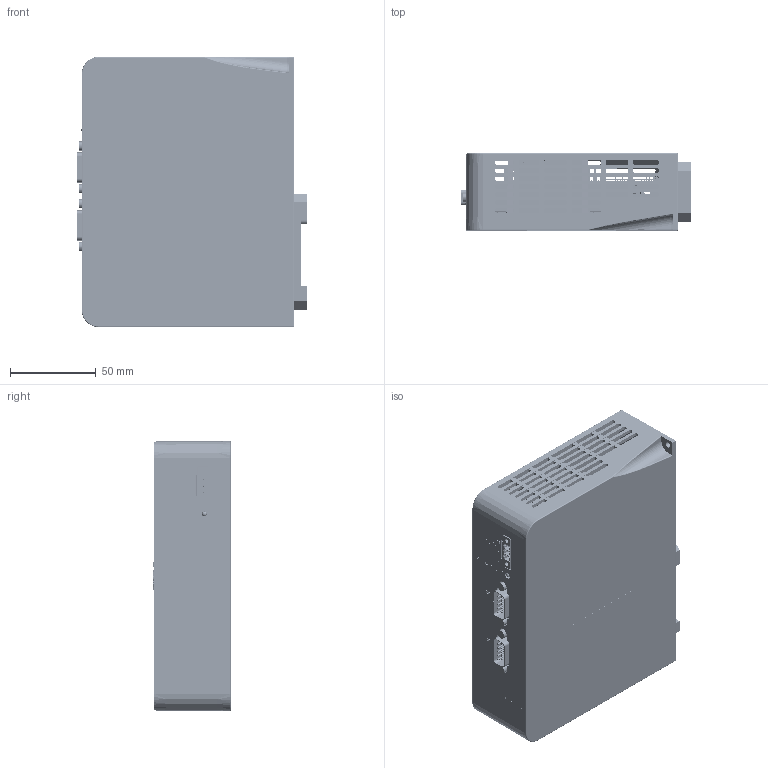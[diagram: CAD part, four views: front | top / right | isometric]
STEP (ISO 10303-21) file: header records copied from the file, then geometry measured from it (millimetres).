
FILE_DESCRIPTION((''),'2;1');
FILE_NAME('C:\Users\Laptop\Desktop\WORK FOLDERS\ACS\SPiiPlusEC\SPiiPlusEC_VER04\MNF\SPiiPlusEC_22.04.14\SPiiPlusEC\STEP\SPiiPlusEC_22.04.14.stp','2014-04-22T16:07:43',('Laptop'),(''),'Autodesk Inventor 2012','Autodesk Inventor 2012','');
FILE_SCHEMA(('AUTOMOTIVE_DESIGN { 1 0 10303 214 1 1 1 1 }'));
Products named in the file (27): SPiiPlusEC; BO-17400-000; 20140325-083620-19116653; CV-17400-000; PC-17432-000-LF; DC-DC, 24V; 1827871; LED_L-130WDT_1 EGW; D-TYPE 9 PIN MALE R; 6150081xxx21; Shielding; Insulator; 878311241; Part2; Part3; MPU; UPPER PCB BOARD- MPU; HEATSINK; FAN_40x40x20; Part1; DINM13-RC DIN RAIL MOUNT CLIP; FLAT BOARD; Flex Board; 791077055; KA50X16
Assembly tree (45 placements, depth 4):
  SPiiPlusEC
    BO-17400-000
      BO-17400-000
      20140325-083620-19116653  x9
    CV-17400-000
    PC-17432-000-LF
      PC-17432-000-LF
      DC-DC, 24V
      1827871
      LED_L-130WDT_1 EGW
      D-TYPE 9 PIN MALE R  x2
      6150081xxx21  x3
        Shielding
        Insulator
      878311241  x3
      Part2
      Part3
    MPU
      UPPER PCB BOARD- MPU
      HEATSINK
    FAN_40x40x20
    Part1
    DINM13-RC DIN RAIL MOUNT CLIP
    FLAT BOARD
      Flex Board
      791077055  x6
    KA50X16  x2
Bounding box: 135 x 45.1 x 157.99 mm (x, y, z)
Volume: 289570.7 mm3; surface area: 252374.8 mm2
Topology: 42 solids, 42 shells, 12254 faces, 32563 edges, 21386 vertices
Faces by surface type: plane 8534, cylinder 2475, bspline 1010, torus 96, cone 89, sphere 50
Full cylindrical faces by diameter (mm): 0.1 x24, 0.457 x1, 0.6 x3, 0.71 x72, 0.8 x54, 0.9 x36, 1 x37, 1.2 x6, 1.25 x3, 1.6 x2, 1.7 x6, 2.146 x2, 2.4 x2, 2.449 x9, 2.459 x9, 2.5 x2, 2.9 x1, 3.2 x21, 3.25 x6, 3.4 x5, 3.9 x1, 4 x5, 4.34 x18, 4.5 x13, 4.78 x18, 5 x2, 5.2 x2, 5.3 x4, 8 x10, 8.8 x2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
Entity records: 202131 total; most frequent: CARTESIAN_POINT 57831, ORIENTED_EDGE 30344, DIRECTION 26082, EDGE_CURVE 15172, VECTOR 10632, LINE 10632, VERTEX_POINT 10107, AXIS2_PLACEMENT_3D 7725
